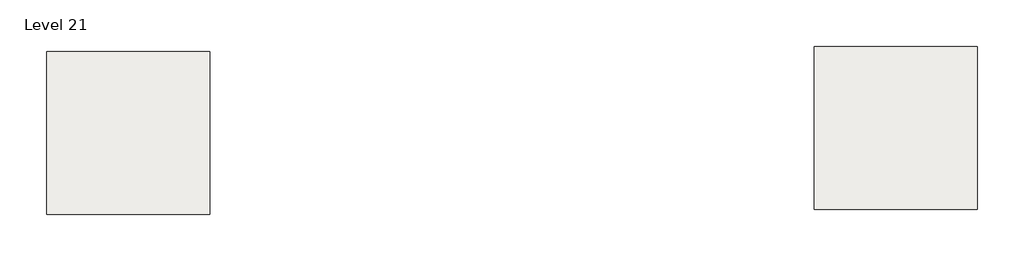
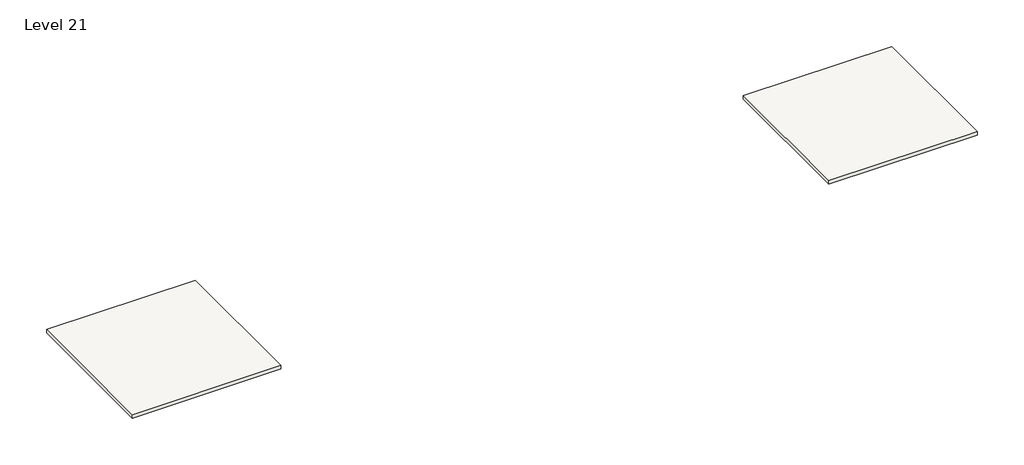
# One storey: 2 slabs.
"""IFC4 building model written with IfcOpenShell, lengths in millimetres."""

from ifc_helpers import new_model, si_unit, frame, origin, place, context, project, spatial, polyline, outline, extrude, element, save

model = new_model("IFC4")

# Units and contexts
model_context = context("Model", 3, world=origin())
ifc_project = project(units=[si_unit("LENGTHUNIT", "METRE", prefix="MILLI")], contexts=[model_context])

# Site, building, storey
site = spatial("IfcSite", under=ifc_project)
building = spatial("IfcBuilding", under=site)
storey = spatial("IfcBuildingStorey", under=building, Name="Level 21", Elevation=60960.0)

# Slabs
placement = place(None, origin())
element("IfcSlab", 1, ObjectType="Generic - 12\"", at=placement, inside=storey, context=model_context, shape_type="SweptSolid", body=[
    extrude(outline(polyline([(-19315.4161695, 7973.9495511), (-7123.4161695, 7973.9495511), (-7123.4161695, -4218.0504489), (-19315.4161695, -4218.0504489), (-19315.4161695, 7973.9495511)])), frame((0.0, 0.0, 60655.2), z_axis=(0.0, 0.0, 1.0), x_axis=(1.0, 0.0, 0.0)), (0.0, 0.0, 1.0), 304.8),
])
element("IfcSlab", 2, ObjectType="Generic - 12\"", at=placement, inside=storey, context=model_context, shape_type="SweptSolid", body=[
    extrude(outline(polyline([(38118.2903978, 8351.0904402), (50310.2903978, 8351.0904402), (50310.2903978, -3840.9095598), (38118.2903978, -3840.9095598), (38118.2903978, 8351.0904402)])), frame((0.0, 0.0, 60655.2), z_axis=(0.0, 0.0, 1.0), x_axis=(1.0, 0.0, 0.0)), (0.0, 0.0, 1.0), 304.8),
])

save(model, "model.ifc")
